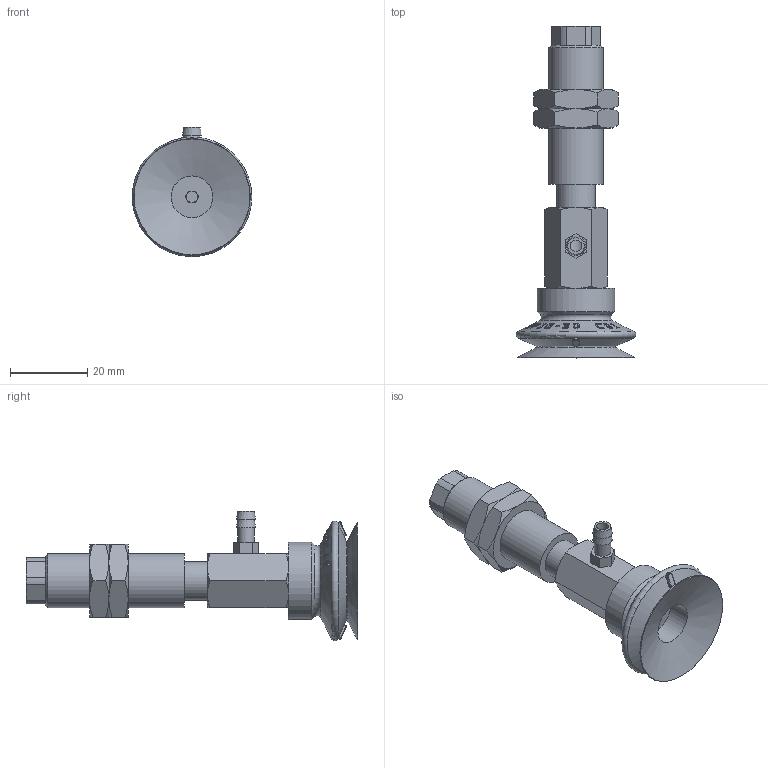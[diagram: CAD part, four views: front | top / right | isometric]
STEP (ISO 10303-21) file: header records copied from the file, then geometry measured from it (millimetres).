
FILE_DESCRIPTION(('STEP AP214'),'1');
FILE_NAME('-T.stp','2026-01-21T05:47:27',(' '),(' '),'Spatial InterOp 3D',' ',' ');
FILE_SCHEMA(('AUTOMOTIVE_DESIGN { 1 0 10303 214 1 1 1 1 }'));
Length unit declared in the file: millimetre
Products named in the file (8): BNABPJYS-30-6-※-T; BPJG-30-※; Adapter-30-NAPJ; CONNECTOR_S-30-6; NUT-NAPJ-30-6-s; NAPJYS-30-6-FBODY; NAPJYS-30-6-MBODY; T
Assembly tree (8 placements, depth 2):
  BNABPJYS-30-6-※-T
    BPJG-30-※
    Adapter-30-NAPJ
    CONNECTOR_S-30-6
    NUT-NAPJ-30-6-s  x2
    NAPJYS-30-6-FBODY
    NAPJYS-30-6-MBODY
    T
Bounding box: 30.99 x 86 x 33.5 mm (x, y, z)
Volume: 17525 mm3; surface area: 12952.5 mm2
Topology: 8 solids, 8 shells, 800 faces, 2202 edges, 1445 vertices
Faces by surface type: plane 687, cone 73, cylinder 33, torus 7
Full cylindrical faces by diameter (mm): 3 x3, 4.134 x2, 4.3 x1, 4.917 x1, 5 x2, 5.8 x1, 6 x1, 10 x2, 10.8 x1, 11 x1, 13.188 x2, 14 x1, 20 x1
Entity records: 31891 total; most frequent: CARTESIAN_POINT 7859, ORIENTED_EDGE 4218, DIRECTION 2715, EDGE_CURVE 2109, VERTEX_POINT 1412, B_SPLINE_CURVE_WITH_KNOTS 1083, LINE 909, VECTOR 909
